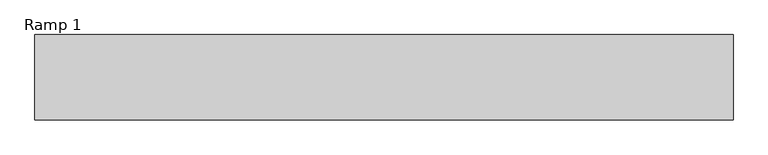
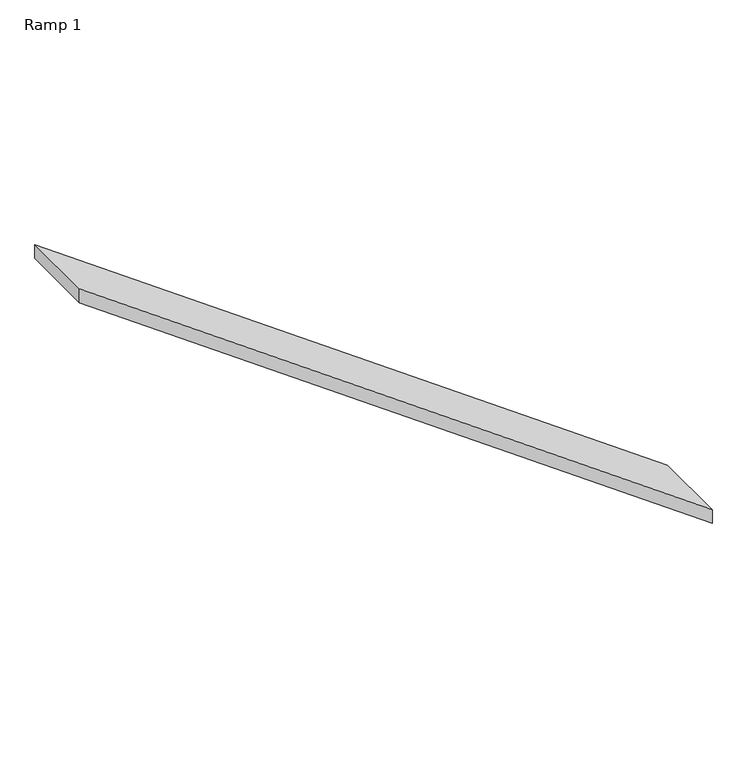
"""IFC4 building model written with IfcOpenShell, lengths in millimetres: ramp geometry, Ramp 1."""

from ifc_helpers import new_model, si_unit, frame, origin, place, context, project, spatial, polyline, outline, extrude, source, transform, mapped, element, save


def ramp_1_033b3e9d(model_context):
    return source(origin(), model_context, "Body", "SweptSolid", [
        extrude(outline(polyline([(100.0, -11394.8992817), (3048.0, -15494.8992817), (2954.1472074, -15494.8992817), (6.1472074, -11394.8992817), (100.0, -11394.8992817)])), frame((0.0, 7785.8868247, 0.0), z_axis=(0.0, 1.0, 0.0), x_axis=(0.0, 0.0, 1.0)), (0.0, 0.0, 1.0), 500.0),
    ])


if __name__ == "__main__":
    model = new_model("IFC4")
    model_context = context("Model", 3, world=origin())
    ifc_project = project(units=[si_unit("LENGTHUNIT", "METRE", prefix="MILLI")], contexts=[model_context])
    site = spatial("IfcSite", under=ifc_project)
    building = spatial("IfcBuilding", under=site)
    placement = place(None, origin())
    ramp_1_shape = ramp_1_033b3e9d(model_context)
    element("IfcRamp", 1, ObjectType="Ramp 1", at=placement, inside=building, context=model_context, shape_type="MappedRepresentation", body=[
        mapped(ramp_1_shape, transform((0.0, 0.0, 0.0), x_axis=(1.0, 0.0, 0.0), y_axis=(0.0, 1.0, 0.0), z_axis=(0.0, 0.0, 1.0))),
    ])
    save(model, "model.ifc")
